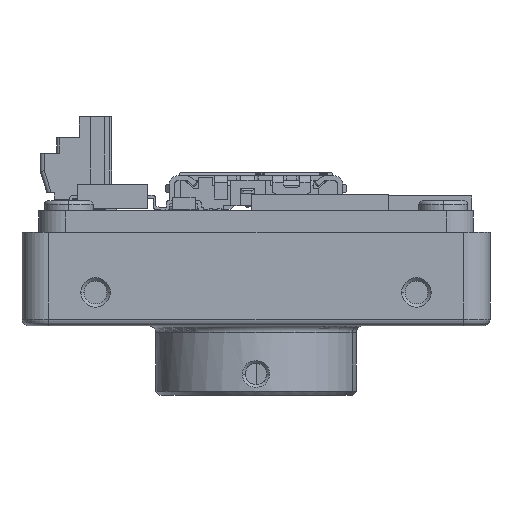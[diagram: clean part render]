
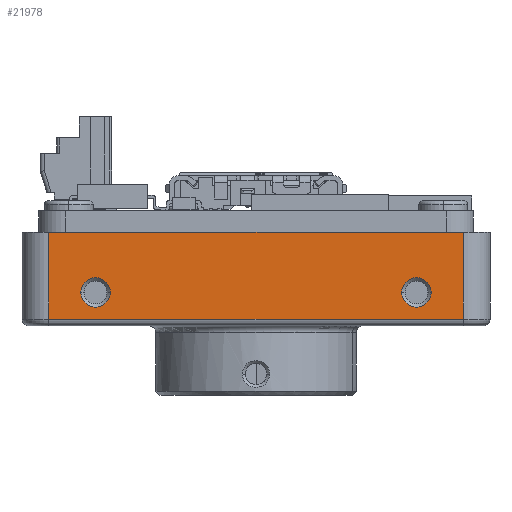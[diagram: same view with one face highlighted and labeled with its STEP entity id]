
A CAD part, left-side view. The second image highlights one B-rep face of the part: STEP entity #21978.
In plain terms, the highlighted planar face has unit normal (-1, 0, 0).
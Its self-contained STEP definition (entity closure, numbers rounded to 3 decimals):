
#1860=DIRECTION('',(0.,1.,0.));
#1861=VECTOR('',#1860,31.);
#1862=CARTESIAN_POINT('',(-17.5,-15.5,7.));
#1863=LINE('',#1862,#1861);
#1888=DIRECTION('',(0.,0.,-1.));
#1889=VECTOR('',#1888,6.5);
#1890=CARTESIAN_POINT('',(-17.5,15.5,7.));
#1891=LINE('',#1890,#1889);
#2024=DIRECTION('',(0.,-1.,0.));
#2025=VECTOR('',#2024,31.);
#2026=CARTESIAN_POINT('',(-17.5,15.5,0.5));
#2027=LINE('',#2026,#2025);
#2028=CARTESIAN_POINT('',(-17.5,-12.,2.5));
#2029=DIRECTION('',(-1.,0.,0.));
#2030=DIRECTION('',(0.,1.,0.));
#2031=AXIS2_PLACEMENT_3D('',#2028,#2029,#2030);
#2033=CARTESIAN_POINT('',(-17.5,-12.,2.5));
#2034=DIRECTION('',(-1.,0.,0.));
#2035=DIRECTION('',(0.,0.,-1.));
#2036=AXIS2_PLACEMENT_3D('',#2033,#2034,#2035);
#2038=CARTESIAN_POINT('',(-17.5,-12.,2.5));
#2039=DIRECTION('',(-1.,0.,0.));
#2040=DIRECTION('',(0.,-1.,0.));
#2041=AXIS2_PLACEMENT_3D('',#2038,#2039,#2040);
#2043=CARTESIAN_POINT('',(-17.5,-12.,2.5));
#2044=DIRECTION('',(-1.,0.,0.));
#2045=DIRECTION('',(0.,0.,1.));
#2046=AXIS2_PLACEMENT_3D('',#2043,#2044,#2045);
#2048=CARTESIAN_POINT('',(-17.5,12.,2.5));
#2049=DIRECTION('',(-1.,0.,0.));
#2050=DIRECTION('',(0.,1.,0.));
#2051=AXIS2_PLACEMENT_3D('',#2048,#2049,#2050);
#2053=CARTESIAN_POINT('',(-17.5,12.,2.5));
#2054=DIRECTION('',(-1.,0.,0.));
#2055=DIRECTION('',(0.,0.,-1.));
#2056=AXIS2_PLACEMENT_3D('',#2053,#2054,#2055);
#2058=CARTESIAN_POINT('',(-17.5,12.,2.5));
#2059=DIRECTION('',(-1.,0.,0.));
#2060=DIRECTION('',(0.,-1.,0.));
#2061=AXIS2_PLACEMENT_3D('',#2058,#2059,#2060);
#2063=CARTESIAN_POINT('',(-17.5,12.,2.5));
#2064=DIRECTION('',(-1.,0.,0.));
#2065=DIRECTION('',(0.,0.,1.));
#2066=AXIS2_PLACEMENT_3D('',#2063,#2064,#2065);
#2068=DIRECTION('',(0.,0.,1.));
#2069=VECTOR('',#2068,6.5);
#2070=CARTESIAN_POINT('',(-17.5,-15.5,0.5));
#2071=LINE('',#2070,#2069);
#15991=CARTESIAN_POINT('',(-17.5,15.5,7.));
#15993=VERTEX_POINT('',#15991);
#16005=CARTESIAN_POINT('',(-17.5,-15.5,7.));
#16006=VERTEX_POINT('',#16005);
#16020=CARTESIAN_POINT('',(-17.5,15.5,0.5));
#16022=VERTEX_POINT('',#16020);
#16067=CARTESIAN_POINT('',(-17.5,-15.5,0.5));
#16068=VERTEX_POINT('',#16067);
#16069=CARTESIAN_POINT('',(-17.5,-10.9,2.5));
#16070=CARTESIAN_POINT('',(-17.5,-12.,1.4));
#16071=VERTEX_POINT('',#16069);
#16072=VERTEX_POINT('',#16070);
#16073=CARTESIAN_POINT('',(-17.5,-13.1,2.5));
#16074=VERTEX_POINT('',#16073);
#16075=CARTESIAN_POINT('',(-17.5,-12.,3.6));
#16076=VERTEX_POINT('',#16075);
#16077=CARTESIAN_POINT('',(-17.5,13.1,2.5));
#16078=CARTESIAN_POINT('',(-17.5,12.,1.4));
#16079=VERTEX_POINT('',#16077);
#16080=VERTEX_POINT('',#16078);
#16081=CARTESIAN_POINT('',(-17.5,10.9,2.5));
#16082=VERTEX_POINT('',#16081);
#16083=CARTESIAN_POINT('',(-17.5,12.,3.6));
#16084=VERTEX_POINT('',#16083);
#21946=CARTESIAN_POINT('',(-17.5,0.,3.75));
#21947=DIRECTION('',(1.,0.,0.));
#21948=DIRECTION('',(0.,-1.,0.));
#21949=AXIS2_PLACEMENT_3D('',#21946,#21947,#21948);
#21950=PLANE('',#21949);
#21951=ORIENTED_EDGE('',*,*,#21940,.F.);
#21952=ORIENTED_EDGE('',*,*,#21815,.F.);
#21953=ORIENTED_EDGE('',*,*,#21783,.F.);
#21955=ORIENTED_EDGE('',*,*,#21954,.F.);
#21956=EDGE_LOOP('',(#21951,#21952,#21953,#21955));
#21957=FACE_OUTER_BOUND('',#21956,.F.);
#21959=ORIENTED_EDGE('',*,*,#21958,.T.);
#21961=ORIENTED_EDGE('',*,*,#21960,.T.);
#21963=ORIENTED_EDGE('',*,*,#21962,.T.);
#21965=ORIENTED_EDGE('',*,*,#21964,.T.);
#21966=EDGE_LOOP('',(#21959,#21961,#21963,#21965));
#21967=FACE_BOUND('',#21966,.F.);
#21969=ORIENTED_EDGE('',*,*,#21968,.T.);
#21971=ORIENTED_EDGE('',*,*,#21970,.T.);
#21973=ORIENTED_EDGE('',*,*,#21972,.T.);
#21975=ORIENTED_EDGE('',*,*,#21974,.T.);
#21976=EDGE_LOOP('',(#21969,#21971,#21973,#21975));
#21977=FACE_BOUND('',#21976,.F.);
#21978=ADVANCED_FACE('',(#21957,#21967,#21977),#21950,.F.);
#2032=CIRCLE('',#2031,1.1);
#2037=CIRCLE('',#2036,1.1);
#2042=CIRCLE('',#2041,1.1);
#2047=CIRCLE('',#2046,1.1);
#2052=CIRCLE('',#2051,1.1);
#2057=CIRCLE('',#2056,1.1);
#2062=CIRCLE('',#2061,1.1);
#2067=CIRCLE('',#2066,1.1);
#21783=EDGE_CURVE('',#16006,#15993,#1863,.T.);
#21815=EDGE_CURVE('',#15993,#16022,#1891,.T.);
#21940=EDGE_CURVE('',#16022,#16068,#2027,.T.);
#21954=EDGE_CURVE('',#16068,#16006,#2071,.T.);
#21958=EDGE_CURVE('',#16071,#16072,#2032,.T.);
#21960=EDGE_CURVE('',#16072,#16074,#2037,.T.);
#21962=EDGE_CURVE('',#16074,#16076,#2042,.T.);
#21964=EDGE_CURVE('',#16076,#16071,#2047,.T.);
#21968=EDGE_CURVE('',#16079,#16080,#2052,.T.);
#21970=EDGE_CURVE('',#16080,#16082,#2057,.T.);
#21972=EDGE_CURVE('',#16082,#16084,#2062,.T.);
#21974=EDGE_CURVE('',#16084,#16079,#2067,.T.);
